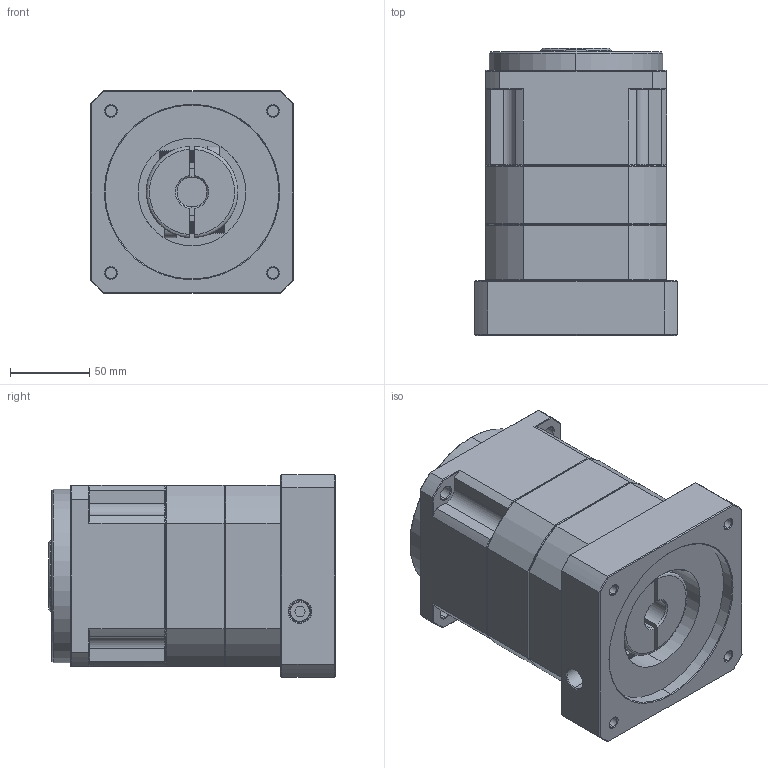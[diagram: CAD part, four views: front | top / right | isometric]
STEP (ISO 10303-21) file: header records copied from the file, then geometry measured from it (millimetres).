
FILE_DESCRIPTION (( 'STEP AP214' ), '1' );
FILE_NAME ('ZPB115-K32-L2-P1-19-110-145-M8.step', '2024-06-12T09:59:39', ( 'Windows 蚚誧' ), ( 'Organization' ), 'SwSTEP 2.0', 'SolidWorks 2016', '' );
FILE_SCHEMA (( 'AUTOMOTIVE_DESIGN' ));
Length unit declared in the file: millimetre
Products named in the file (1): ZPB115-K32-L2-P1-19-110-145-M8
Bounding box: 128 x 181.5 x 128 mm (x, y, z)
Surface area: 147766.5 mm2 (no closed solid volume)
Topology: 0 solids, 28 shells, 1784 faces, 4811 edges, 3090 vertices
Faces by surface type: plane 922, bspline 374, cone 268, cylinder 220
Entity records: 86099 total; most frequent: CARTESIAN_POINT 37785, ORIENTED_EDGE 9620, DIRECTION 7378, EDGE_CURVE 4811, LINE 3142, VECTOR 3142, VERTEX_POINT 3090, AXIS2_PLACEMENT_3D 2118
